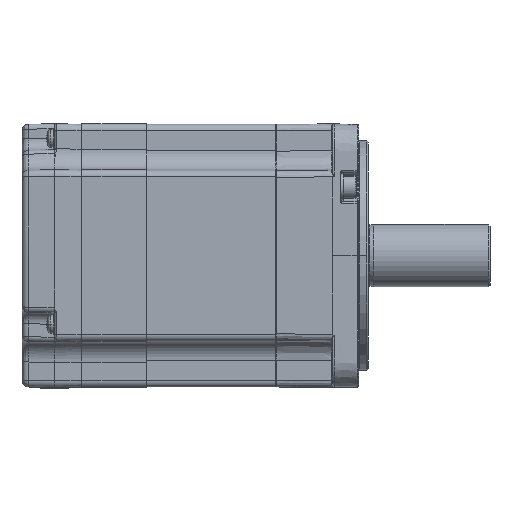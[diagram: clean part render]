
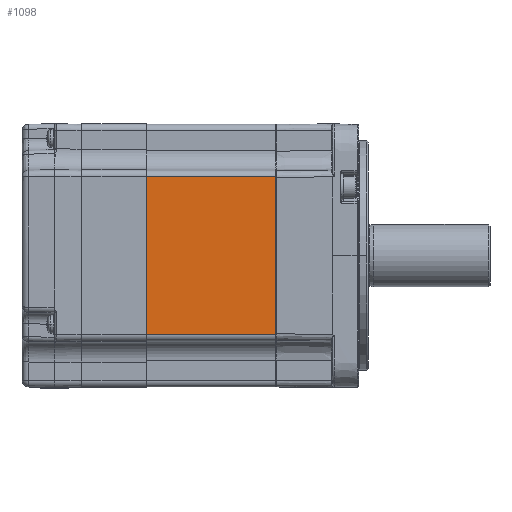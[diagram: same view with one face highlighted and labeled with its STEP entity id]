
A CAD part, front view. The second image highlights one B-rep face of the part: STEP entity #1098.
In plain terms, the highlighted planar face has unit normal (0, -1, 0).
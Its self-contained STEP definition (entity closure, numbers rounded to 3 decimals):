
#1098=ADVANCED_FACE('',(#8971),#8970,.T.);
#8970=PLANE('',#19933);
#8971=FACE_OUTER_BOUND('',#19934,.T.);
#19930=CARTESIAN_POINT('',(-21.36,-40.,-28.8));
#19931=DIRECTION('',(0.,-1.,0.));
#19932=DIRECTION('',(0.,0.,1.));
#19933=AXIS2_PLACEMENT_3D('',#19930,#19931,#19932);
#19934=EDGE_LOOP('',(#25978,#25979,#25980,#25981));
#25978=ORIENTED_EDGE('',*,*,#29198,.F.);
#25979=ORIENTED_EDGE('',*,*,#29199,.F.);
#25980=ORIENTED_EDGE('',*,*,#29200,.T.);
#25981=ORIENTED_EDGE('',*,*,#28750,.T.);
#28750=EDGE_CURVE('',#41092,#41085,#41093,.T.);
#29198=EDGE_CURVE('',#44000,#41085,#44007,.T.);
#29199=EDGE_CURVE('',#44013,#44000,#44014,.T.);
#29200=EDGE_CURVE('',#44013,#41092,#44020,.T.);
#41085=VERTEX_POINT('',#54439);
#41092=VERTEX_POINT('',#54444);
#41093=LINE('',#54445,#54446);
#44000=VERTEX_POINT('',#57204);
#44007=LINE('',#57209,#57210);
#44013=VERTEX_POINT('',#57212);
#44014=LINE('',#57213,#57214);
#44020=LINE('',#57216,#57217);
#54439=CARTESIAN_POINT('',(-64.7,-40.,-24.));
#54444=CARTESIAN_POINT('',(-64.7,-40.,24.));
#54445=CARTESIAN_POINT('',(-64.7,-40.,24.));
#54446=VECTOR('',#54447,48.);
#54447=DIRECTION('',(0.,0.,-1.));
#57204=CARTESIAN_POINT('',(-25.3,-40.,-24.));
#57209=CARTESIAN_POINT('',(-25.3,-40.,-24.));
#57210=VECTOR('',#57211,39.4);
#57211=DIRECTION('',(-1.,0.,0.));
#57212=CARTESIAN_POINT('',(-25.3,-40.,24.));
#57213=CARTESIAN_POINT('',(-25.3,-40.,24.));
#57214=VECTOR('',#57215,48.);
#57215=DIRECTION('',(0.,0.,-1.));
#57216=CARTESIAN_POINT('',(-25.3,-40.,24.));
#57217=VECTOR('',#57218,39.4);
#57218=DIRECTION('',(-1.,0.,0.));
